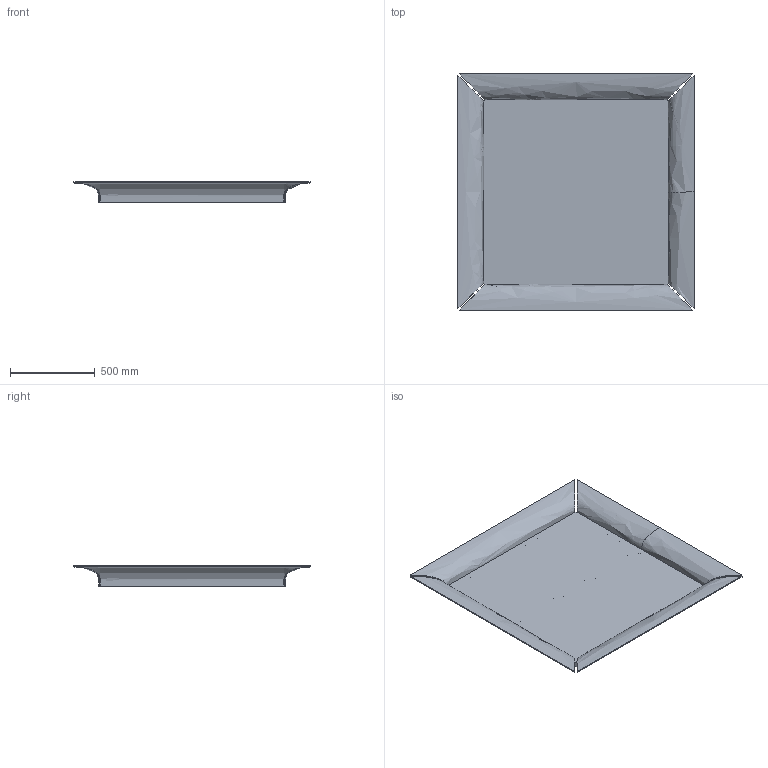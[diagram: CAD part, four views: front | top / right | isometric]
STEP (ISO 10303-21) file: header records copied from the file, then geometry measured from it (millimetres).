
FILE_DESCRIPTION(/* description */ (''),/* implementation_level */ '2;1');
FILE_NAME(/* name */ '300 - Caadre - 140x140',/* time_stamp */ '2010-11-02T14:24:33+01:00',/* author */ (''),/* organization */ (''),/* preprocessor_version */ 'ST-DEVELOPER v10',/* originating_system */ '',/* authorisation */ '');
FILE_SCHEMA (('CONFIG_CONTROL_DESIGN'));
Length unit declared in the file: centimetre
Products named in the file (1): 1
Bounding box: 1396 x 1396 x 119 mm (x, y, z)
Volume: 18191033 mm3; surface area: 5223362 mm2
Topology: 6 solids, 6 shells, 68 faces, 154 edges, 96 vertices
Faces by surface type: bspline 45, plane 23
Entity records: 3693 total; most frequent: CARTESIAN_POINT 2561, ORIENTED_EDGE 308, EDGE_CURVE 154, B_SPLINE_CURVE_WITH_KNOTS 154, VERTEX_POINT 96, ADVANCED_FACE 68, FACE_OUTER_BOUND 68, EDGE_LOOP 68
